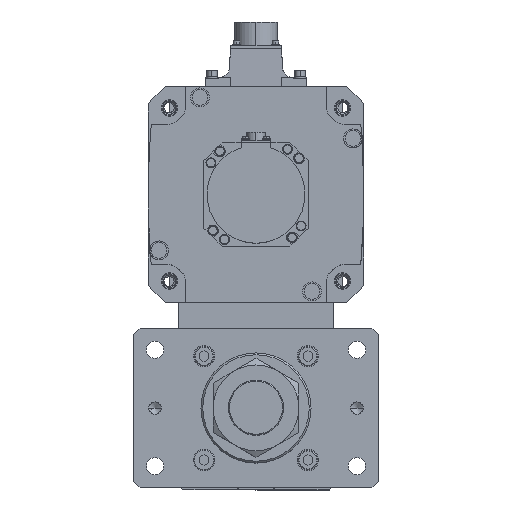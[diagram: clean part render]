
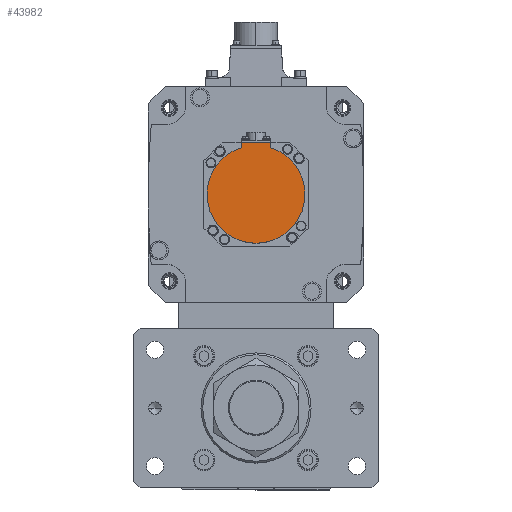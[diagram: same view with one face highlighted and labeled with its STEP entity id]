
A CAD part, top view. The second image highlights one B-rep face of the part: STEP entity #43982.
In plain terms, the highlighted planar face has unit normal (0, 0, 1) as drawn and (0, 0, -1) by its records, which use the part's own axes.
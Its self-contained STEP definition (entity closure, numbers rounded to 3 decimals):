
#387 = EDGE_CURVE ( 'NONE', #17949, #6356, #22127, .T. ) ;
#1474 = DIRECTION ( 'NONE',  ( -1., 0., 0. ) ) ;
#2852 = LINE ( 'NONE', #21702, #41250 ) ;
#3888 = VERTEX_POINT ( 'NONE', #42545 ) ;
#4691 = CARTESIAN_POINT ( 'NONE',  ( 0., 0., -138.5 ) ) ;
#4868 = VERTEX_POINT ( 'NONE', #10155 ) ;
#6245 = CARTESIAN_POINT ( 'NONE',  ( -12., -38.158, -138.5 ) ) ;
#6356 = VERTEX_POINT ( 'NONE', #6245 ) ;
#6869 = EDGE_CURVE ( 'NONE', #24798, #4868, #9028, .T. ) ;
#7732 = LINE ( 'NONE', #23436, #24765 ) ;
#9028 = CIRCLE ( 'NONE', #23153, 40. ) ;
#10155 = CARTESIAN_POINT ( 'NONE',  ( -40., 0., -138.5 ) ) ;
#11397 = PLANE ( 'NONE',  #18958 ) ;
#12046 = VECTOR ( 'NONE', #36171, 1000. ) ;
#12847 = ORIENTED_EDGE ( 'NONE', *, *, #15492, .F. ) ;
#13253 = ORIENTED_EDGE ( 'NONE', *, *, #387, .T. ) ;
#15492 = EDGE_CURVE ( 'NONE', #4868, #6356, #32511, .T. ) ;
#15823 = DIRECTION ( 'NONE',  ( 0., 0., 1. ) ) ;
#15998 = CARTESIAN_POINT ( 'NONE',  ( 0., -1.249, -138.5 ) ) ;
#17949 = VERTEX_POINT ( 'NONE', #23417 ) ;
#18703 = CARTESIAN_POINT ( 'NONE',  ( 12., -38.158, -138.5 ) ) ;
#18958 = AXIS2_PLACEMENT_3D ( 'NONE', #15998, #15823, #39543 ) ;
#20181 = DIRECTION ( 'NONE',  ( 0., 0., 1. ) ) ;
#21702 = CARTESIAN_POINT ( 'NONE',  ( 0., -42.5, -138.5 ) ) ;
#22127 = LINE ( 'NONE', #40221, #12046 ) ;
#22422 = CARTESIAN_POINT ( 'NONE',  ( 0., 0., -138.5 ) ) ;
#22595 = EDGE_CURVE ( 'NONE', #3888, #17949, #2852, .T. ) ;
#23153 = AXIS2_PLACEMENT_3D ( 'NONE', #22422, #34526, #42799 ) ;
#23417 = CARTESIAN_POINT ( 'NONE',  ( -12., -42.5, -138.5 ) ) ;
#23436 = CARTESIAN_POINT ( 'NONE',  ( 12., -1.249, -138.5 ) ) ;
#23916 = ORIENTED_EDGE ( 'NONE', *, *, #47210, .F. ) ;
#24152 = CIRCLE ( 'NONE', #31808, 40. ) ;
#24765 = VECTOR ( 'NONE', #40468, 1000. ) ;
#24798 = VERTEX_POINT ( 'NONE', #44076 ) ;
#25956 = ORIENTED_EDGE ( 'NONE', *, *, #6869, .F. ) ;
#26720 = AXIS2_PLACEMENT_3D ( 'NONE', #35803, #31635, #47592 ) ;
#30266 = VERTEX_POINT ( 'NONE', #18703 ) ;
#30960 = ORIENTED_EDGE ( 'NONE', *, *, #22595, .T. ) ;
#31476 = ORIENTED_EDGE ( 'NONE', *, *, #45680, .F. ) ;
#31635 = DIRECTION ( 'NONE',  ( 0., 0., 1. ) ) ;
#31808 = AXIS2_PLACEMENT_3D ( 'NONE', #4691, #20181, #36688 ) ;
#32511 = CIRCLE ( 'NONE', #26720, 40. ) ;
#34526 = DIRECTION ( 'NONE',  ( 0., 0., 1. ) ) ;
#35803 = CARTESIAN_POINT ( 'NONE',  ( 0., 0., -138.5 ) ) ;
#36171 = DIRECTION ( 'NONE',  ( 0., 1., 0. ) ) ;
#36688 = DIRECTION ( 'NONE',  ( 1., 0., 0. ) ) ;
#39543 = DIRECTION ( 'NONE',  ( 1., 0., 0. ) ) ;
#40221 = CARTESIAN_POINT ( 'NONE',  ( -12., -40.329, -138.5 ) ) ;
#40468 = DIRECTION ( 'NONE',  ( 0., 1., 0. ) ) ;
#41250 = VECTOR ( 'NONE', #1474, 1000. ) ;
#42545 = CARTESIAN_POINT ( 'NONE',  ( 12., -42.5, -138.5 ) ) ;
#42799 = DIRECTION ( 'NONE',  ( 1., 0., 0. ) ) ;
#43982 = ADVANCED_FACE ( 'NONE', ( #45626 ), #11397, .F. ) ;
#44076 = CARTESIAN_POINT ( 'NONE',  ( 40., 0., -138.5 ) ) ;
#45626 = FACE_OUTER_BOUND ( 'NONE', #46199, .T. ) ;
#45680 = EDGE_CURVE ( 'NONE', #30266, #24798, #24152, .T. ) ;
#46199 = EDGE_LOOP ( 'NONE', ( #13253, #12847, #25956, #31476, #23916, #30960 ) ) ;
#47210 = EDGE_CURVE ( 'NONE', #3888, #30266, #7732, .T. ) ;
#47592 = DIRECTION ( 'NONE',  ( 1., 0., 0. ) ) ;
